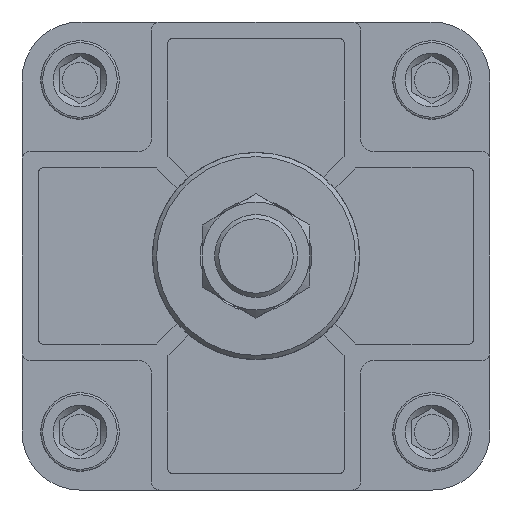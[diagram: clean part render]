
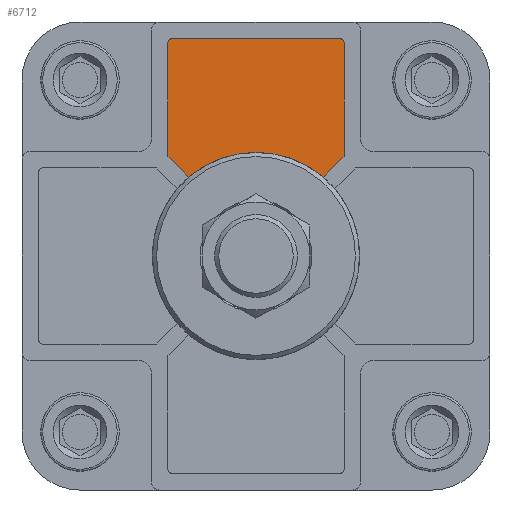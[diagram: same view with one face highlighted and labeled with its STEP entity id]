
A CAD part, front view. The second image highlights one B-rep face of the part: STEP entity #6712.
In plain terms, the highlighted planar face has unit normal (0, -1, 0).
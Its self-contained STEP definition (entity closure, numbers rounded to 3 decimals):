
#243=LINE('',#9247,#685);
#244=LINE('',#9252,#686);
#245=LINE('',#9256,#687);
#246=LINE('',#9258,#688);
#247=LINE('',#9262,#689);
#685=VECTOR('',#7672,1000.);
#686=VECTOR('',#7675,1000.);
#687=VECTOR('',#7678,1000.);
#688=VECTOR('',#7679,1000.);
#689=VECTOR('',#7682,1000.);
#1146=ORIENTED_EDGE('',*,*,#2569,.F.);
#1147=ORIENTED_EDGE('',*,*,#2570,.T.);
#1148=ORIENTED_EDGE('',*,*,#2571,.F.);
#1149=ORIENTED_EDGE('',*,*,#2572,.T.);
#1150=ORIENTED_EDGE('',*,*,#2573,.F.);
#1151=ORIENTED_EDGE('',*,*,#2574,.F.);
#1152=ORIENTED_EDGE('',*,*,#2575,.F.);
#1153=ORIENTED_EDGE('',*,*,#2576,.F.);
#2569=EDGE_CURVE('',#3283,#3284,#243,.T.);
#2570=EDGE_CURVE('',#3283,#3285,#3767,.F.);
#2571=EDGE_CURVE('',#3286,#3285,#244,.T.);
#2572=EDGE_CURVE('',#3286,#3287,#3768,.F.);
#2573=EDGE_CURVE('',#3288,#3287,#245,.T.);
#2574=EDGE_CURVE('',#3289,#3288,#246,.T.);
#2575=EDGE_CURVE('',#3290,#3289,#3769,.F.);
#2576=EDGE_CURVE('',#3284,#3290,#247,.T.);
#3283=VERTEX_POINT('',#9248);
#3284=VERTEX_POINT('',#9249);
#3285=VERTEX_POINT('',#9251);
#3286=VERTEX_POINT('',#9253);
#3287=VERTEX_POINT('',#9255);
#3288=VERTEX_POINT('',#9257);
#3289=VERTEX_POINT('',#9259);
#3290=VERTEX_POINT('',#9261);
#3767=CIRCLE('',#7066,1.);
#3768=CIRCLE('',#7067,1.);
#3769=CIRCLE('',#7068,25.);
#4011=EDGE_LOOP('',(#1146,#1147,#1148,#1149,#1150,#1151,#1152,#1153));
#4435=FACE_BOUND('',#4011,.T.);
#4849=PLANE('',#7065);
#6712=ADVANCED_FACE('',(#4435),#4849,.F.);
#7065=AXIS2_PLACEMENT_3D('',#9246,#7670,#7671);
#7066=AXIS2_PLACEMENT_3D('',#9250,#7673,#7674);
#7067=AXIS2_PLACEMENT_3D('',#9254,#7676,#7677);
#7068=AXIS2_PLACEMENT_3D('',#9260,#7680,#7681);
#7670=DIRECTION('',(0.,1.,0.));
#7671=DIRECTION('',(0.,0.,1.));
#7672=DIRECTION('',(0.,0.,-1.));
#7673=DIRECTION('',(0.,1.,0.));
#7674=DIRECTION('',(0.,0.,1.));
#7675=DIRECTION('',(1.,0.,0.));
#7676=DIRECTION('',(0.,1.,0.));
#7677=DIRECTION('',(0.,0.,1.));
#7678=DIRECTION('',(0.,0.,1.));
#7679=DIRECTION('',(-0.707,0.,0.707));
#7680=DIRECTION('',(0.,1.,0.));
#7681=DIRECTION('',(0.,0.,1.));
#7682=DIRECTION('',(-0.707,0.,-0.707));
#9246=CARTESIAN_POINT('',(0.,-27.5,0.));
#9247=CARTESIAN_POINT('',(21.25,-27.5,25.25));
#9248=CARTESIAN_POINT('',(21.25,-27.5,51.5));
#9249=CARTESIAN_POINT('',(21.25,-27.5,24.078));
#9250=CARTESIAN_POINT('',(20.25,-27.5,51.5));
#9251=CARTESIAN_POINT('',(20.25,-27.5,52.5));
#9252=CARTESIAN_POINT('',(21.25,-27.5,52.5));
#9253=CARTESIAN_POINT('',(-20.25,-27.5,52.5));
#9254=CARTESIAN_POINT('',(-20.25,-27.5,51.5));
#9255=CARTESIAN_POINT('',(-21.25,-27.5,51.5));
#9256=CARTESIAN_POINT('',(-21.25,-27.5,52.5));
#9257=CARTESIAN_POINT('',(-21.25,-27.5,24.078));
#9258=CARTESIAN_POINT('',(-15.852,-27.5,18.681));
#9259=CARTESIAN_POINT('',(-16.207,-27.5,19.035));
#9260=CARTESIAN_POINT('',(0.,-27.5,0.));
#9261=CARTESIAN_POINT('',(16.207,-27.5,19.035));
#9262=CARTESIAN_POINT('',(15.852,-27.5,18.681));
